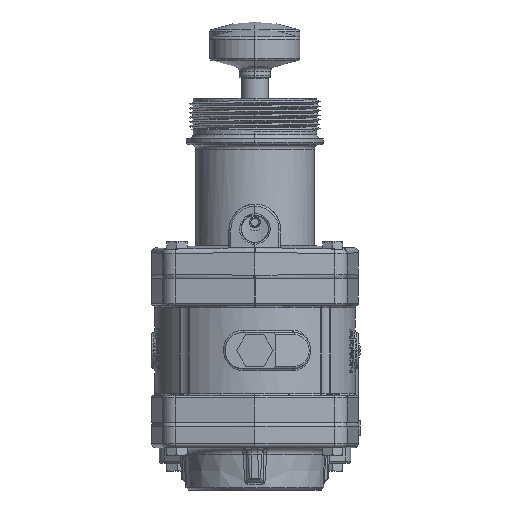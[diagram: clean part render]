
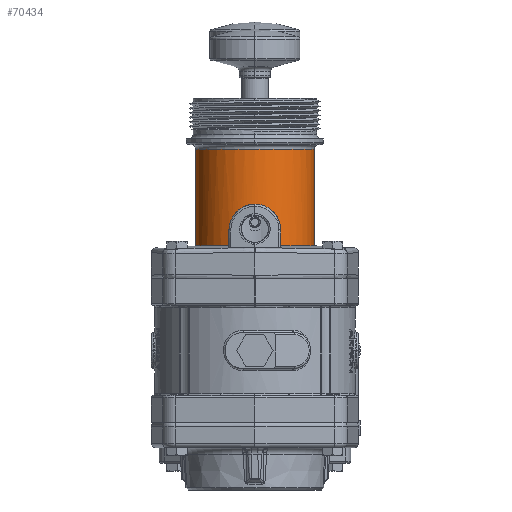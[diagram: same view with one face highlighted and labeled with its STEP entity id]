
A CAD part, front view. The second image highlights one B-rep face of the part: STEP entity #70434.
In plain terms, the highlighted cylindrical face has radius 41.846 mm (diameter 83.693 mm), a partial arc.
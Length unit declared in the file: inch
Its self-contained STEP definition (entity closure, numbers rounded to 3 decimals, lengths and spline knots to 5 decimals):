
#63642=CARTESIAN_POINT('',(0.,0.,2.90479));
#63643=DIRECTION('',(0.,0.,1.));
#63644=DIRECTION('',(0.436,-0.9,0.));
#63645=AXIS2_PLACEMENT_3D('',#63642,#63643,#63644);
#64725=CARTESIAN_POINT('',(0.,0.,2.90479));
#64726=DIRECTION('',(0.,0.,1.));
#64727=DIRECTION('',(-1.,0.,0.));
#64728=AXIS2_PLACEMENT_3D('',#64725,#64726,#64727);
#64849=CARTESIAN_POINT('',(0.,0.,5.5945));
#64850=DIRECTION('',(0.,0.,-1.));
#64851=DIRECTION('',(1.,0.,0.));
#64852=AXIS2_PLACEMENT_3D('',#64849,#64850,#64851);
#64854=DIRECTION('',(0.,0.,-1.));
#64855=VECTOR('',#64854,2.68971);
#64856=CARTESIAN_POINT('',(1.6475,0.,5.5945));
#64857=LINE('',#64856,#64855);
#64858=DIRECTION('',(0.,0.,1.));
#64859=VECTOR('',#64858,0.44275);
#64860=CARTESIAN_POINT('',(0.71875,-1.48245,2.90479));
#64861=LINE('',#64860,#64859);
#64862=CARTESIAN_POINT('',(0.71875,-1.48245,3.34754));
#64863=CARTESIAN_POINT('',(0.71875,-1.48245,3.39195));
#64864=CARTESIAN_POINT('',(0.71081,-1.48635,
3.47954));
#64865=CARTESIAN_POINT('',(0.67306,-1.50406,
3.61173));
#64866=CARTESIAN_POINT('',(0.61255,-1.53004,
3.7313));
#64867=CARTESIAN_POINT('',(0.53262,-1.55991,
3.83573));
#64868=CARTESIAN_POINT('',(0.4394,-1.58905,
3.92129));
#64869=CARTESIAN_POINT('',(0.32526,-1.61662,
3.99318));
#64870=CARTESIAN_POINT('',(0.2013,-1.63688,
4.04184));
#64871=CARTESIAN_POINT('',(0.06844,-1.64789,
4.0672));
#64872=CARTESIAN_POINT('',(-0.0648,-1.64804,
4.06755));
#64873=CARTESIAN_POINT('',(-0.19806,-1.63728,
4.04279));
#64874=CARTESIAN_POINT('',(-0.32185,-1.61728,
3.99477));
#64875=CARTESIAN_POINT('',(-0.4357,-1.59011,
3.92428));
#64876=CARTESIAN_POINT('',(-0.53308,-1.55982,
3.83563));
#64877=CARTESIAN_POINT('',(-0.61351,-1.52963,
3.72969));
#64878=CARTESIAN_POINT('',(-0.673,-1.50408,
3.61144));
#64879=CARTESIAN_POINT('',(-0.71042,-1.48654,
3.48139));
#64880=CARTESIAN_POINT('',(-0.71875,-1.48245,3.3928));
#64881=CARTESIAN_POINT('',(-0.71875,-1.48245,3.34754));
#64883=DIRECTION('',(0.,0.,1.));
#64884=VECTOR('',#64883,0.44275);
#64885=CARTESIAN_POINT('',(-0.71875,-1.48245,2.90479));
#64886=LINE('',#64885,#64884);
#64887=DIRECTION('',(0.,0.,1.));
#64888=VECTOR('',#64887,2.68971);
#64889=CARTESIAN_POINT('',(-1.6475,0.,2.90479));
#64890=LINE('',#64889,#64888);
#68239=VERTEX_POINT('',#64862);
#68240=VERTEX_POINT('',#64881);
#68241=CARTESIAN_POINT('',(0.71875,-1.48245,2.90479));
#68242=VERTEX_POINT('',#68241);
#68243=CARTESIAN_POINT('',(-0.71875,-1.48245,2.90479));
#68244=VERTEX_POINT('',#68243);
#68245=CARTESIAN_POINT('',(1.6475,0.,2.90479));
#68246=VERTEX_POINT('',#68245);
#68247=CARTESIAN_POINT('',(-1.6475,0.,2.90479));
#68248=VERTEX_POINT('',#68247);
#68528=CARTESIAN_POINT('',(1.6475,0.,5.5945));
#68529=CARTESIAN_POINT('',(-1.6475,0.,5.5945));
#68530=VERTEX_POINT('',#68528);
#68531=VERTEX_POINT('',#68529);
#70415=CARTESIAN_POINT('',(0.,0.,1.65379));
#70416=DIRECTION('',(0.,0.,1.));
#70417=DIRECTION('',(-1.,0.,0.));
#70418=AXIS2_PLACEMENT_3D('',#70415,#70416,#70417);
#70419=CYLINDRICAL_SURFACE('',#70418,1.6475);
#70421=ORIENTED_EDGE('',*,*,#70420,.F.);
#70423=ORIENTED_EDGE('',*,*,#70422,.T.);
#70424=ORIENTED_EDGE('',*,*,#68577,.F.);
#70426=ORIENTED_EDGE('',*,*,#70425,.T.);
#70427=ORIENTED_EDGE('',*,*,#70408,.T.);
#70428=ORIENTED_EDGE('',*,*,#70272,.F.);
#70429=ORIENTED_EDGE('',*,*,#70247,.F.);
#70431=ORIENTED_EDGE('',*,*,#70430,.T.);
#70432=EDGE_LOOP('',(#70421,#70423,#70424,#70426,#70427,#70428,#70429,#70431));
#70433=FACE_OUTER_BOUND('',#70432,.F.);
#70434=ADVANCED_FACE('',(#70433),#70419,.T.);
#63646=CIRCLE('',#63645,1.6475);
#64729=CIRCLE('',#64728,1.6475);
#64853=CIRCLE('',#64852,1.6475);
#64882=B_SPLINE_CURVE_WITH_KNOTS('',3,(#64862,#64863,#64864,#64865,#64866,
#64867,#64868,#64869,#64870,#64871,#64872,#64873,#64874,#64875,#64876,#64877,
#64878,#64879,#64880,#64881),.UNSPECIFIED.,.F.,.F.,(4,1,1,1,1,1,1,1,1,1,1,1,1,1,
1,1,1,4),(0.,0.05882,0.11765,0.17647,
0.23529,0.29412,0.35294,0.41176,
0.47059,0.52941,0.58824,0.64706,
0.70588,0.76471,0.82353,0.88235,
0.94118,1.),.UNSPECIFIED.);
#68577=EDGE_CURVE('',#68242,#68246,#63646,.T.);
#70247=EDGE_CURVE('',#68248,#68244,#64729,.T.);
#70272=EDGE_CURVE('',#68244,#68240,#64886,.T.);
#70408=EDGE_CURVE('',#68239,#68240,#64882,.T.);
#70420=EDGE_CURVE('',#68530,#68531,#64853,.T.);
#70422=EDGE_CURVE('',#68530,#68246,#64857,.T.);
#70425=EDGE_CURVE('',#68242,#68239,#64861,.T.);
#70430=EDGE_CURVE('',#68248,#68531,#64890,.T.);
